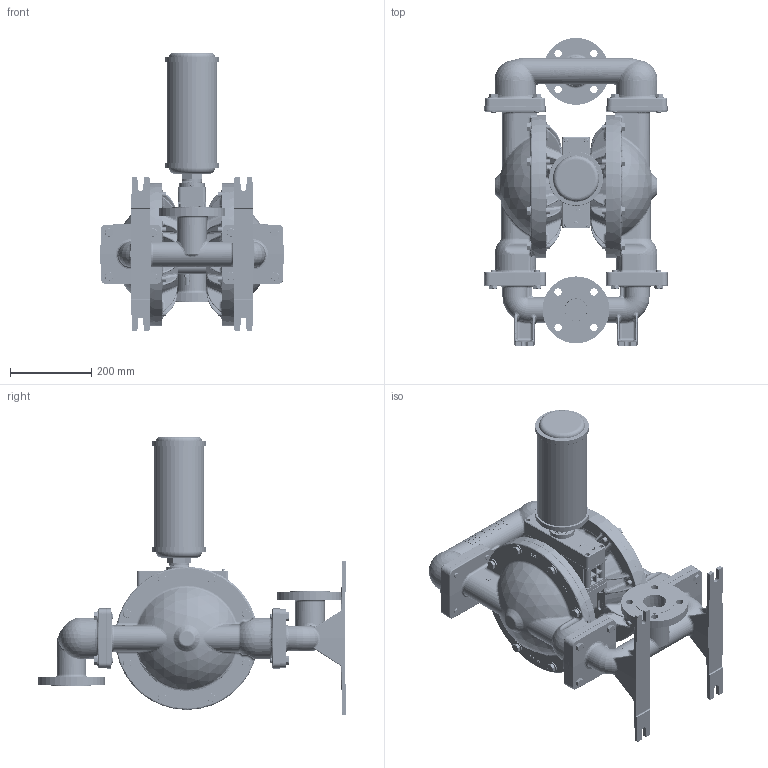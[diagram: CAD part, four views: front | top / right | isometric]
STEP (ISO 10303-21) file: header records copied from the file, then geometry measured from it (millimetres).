
FILE_DESCRIPTION (( 'STEP AP203' ), '1' );
FILE_NAME ('PS830_ADV_SS_DIN.STEP', '2022-07-04T14:01:31', ( '' ), ( '' ), 'SwSTEP 2.0', 'SolidWorks 2019', '' );
FILE_SCHEMA (( 'CONFIG_CONTROL_DESIGN' ));
Length unit declared in the file: inch
Products named in the file (1): PS830_ADV_SS_DIN
Bounding box: 452.41 x 760.35 x 687.2 mm (x, y, z)
Volume: 30986601.2 mm3; surface area: 1690902.7 mm2
Topology: 1 solids, 1 shells, 7552 faces, 19487 edges, 12232 vertices
Faces by surface type: plane 4201, bspline 1121, cylinder 1061, cone 529, torus 376, sphere 264
Entity records: 522766 total; most frequent: CARTESIAN_POINT 347404, ORIENTED_EDGE 39056, DIRECTION 32768, EDGE_CURVE 19528, VERTEX_POINT 12256, LINE 11544, VECTOR 11544, AXIS2_PLACEMENT_3D 10612
